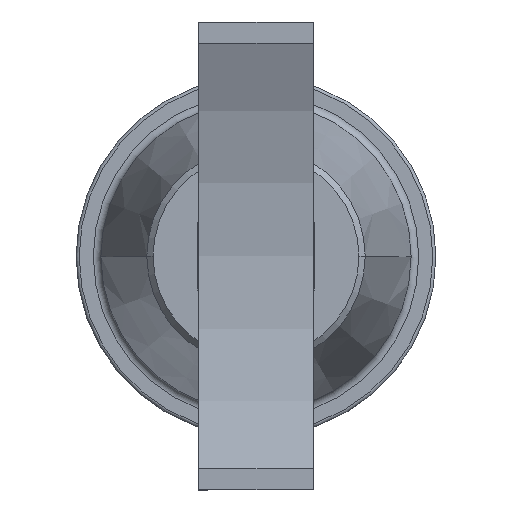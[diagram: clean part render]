
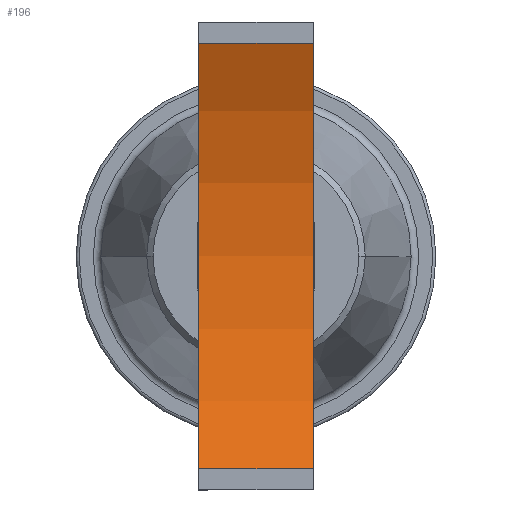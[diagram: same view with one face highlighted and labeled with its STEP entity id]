
A CAD part, top view. The second image highlights one B-rep face of the part: STEP entity #196.
In plain terms, the highlighted cylindrical face has radius 304.8 mm (diameter 609.6 mm), a partial arc.
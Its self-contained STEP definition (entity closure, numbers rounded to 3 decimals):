
#196=ADVANCED_FACE('',(#475),#476,.F.);
#475=FACE_OUTER_BOUND('',#876,.T.);
#476=CYLINDRICAL_SURFACE('',#877,304.8);
#876=EDGE_LOOP('',(#1251,#1252,#1253,#1254));
#877=AXIS2_PLACEMENT_3D('',#1255,#1256,#1257);
#1251=ORIENTED_EDGE('',*,*,#2282,.T.);
#1252=ORIENTED_EDGE('',*,*,#2283,.F.);
#1253=ORIENTED_EDGE('',*,*,#2284,.T.);
#1254=ORIENTED_EDGE('',*,*,#2279,.T.);
#1255=CARTESIAN_POINT('',(546.817,624.35,264.9));
#1256=DIRECTION('',(-1.0,0.,0.));
#1257=DIRECTION('',(0.,-1.0,0.));
#2279=EDGE_CURVE('',#2689,#2687,#2690,.T.);
#2282=EDGE_CURVE('',#2687,#2693,#2694,.T.);
#2283=EDGE_CURVE('',#2695,#2693,#2696,.T.);
#2284=EDGE_CURVE('',#2695,#2689,#2697,.T.);
#2687=VERTEX_POINT('',#3278);
#2689=VERTEX_POINT('',#3281);
#2690=LINE('',#3282,#3283);
#2693=VERTEX_POINT('',#3287);
#2694=CIRCLE('',#3288,304.8);
#2695=VERTEX_POINT('',#3289);
#2696=LINE('',#3290,#3291);
#2697=CIRCLE('',#3292,304.8);
#3278=CARTESIAN_POINT('',(473.817,760.303,-7.9));
#3281=CARTESIAN_POINT('',(546.817,760.303,-7.9));
#3282=CARTESIAN_POINT('',(546.817,760.303,-7.9));
#3283=VECTOR('',#4575,1.0);
#3287=CARTESIAN_POINT('',(473.817,488.397,-7.9));
#3288=AXIS2_PLACEMENT_3D('',#4577,#4578,#4579);
#3289=CARTESIAN_POINT('',(546.817,488.397,-7.9));
#3290=CARTESIAN_POINT('',(546.817,488.397,-7.9));
#3291=VECTOR('',#4580,1.0);
#3292=AXIS2_PLACEMENT_3D('',#4581,#4582,#4583);
#4575=DIRECTION('',(-1.0,0.,0.));
#4577=CARTESIAN_POINT('',(473.817,624.35,264.9));
#4578=DIRECTION('',(-1.0,0.,0.));
#4579=DIRECTION('',(0.,-1.0,0.));
#4580=DIRECTION('',(-1.0,0.,0.));
#4581=CARTESIAN_POINT('',(546.817,624.35,264.9));
#4582=DIRECTION('',(1.0,0.,0.));
#4583=DIRECTION('',(0.,-1.0,0.));
